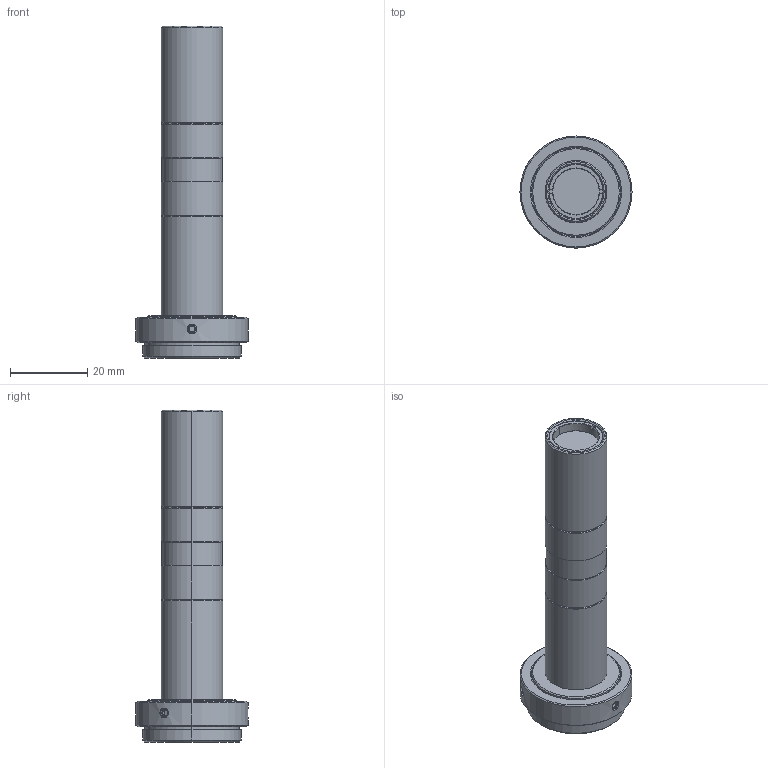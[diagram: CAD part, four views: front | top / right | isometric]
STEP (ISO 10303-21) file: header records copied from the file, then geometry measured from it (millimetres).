
FILE_DESCRIPTION (( 'STEP AP203' ), '1' );
FILE_NAME ('MML4-ST110_A03703A0100101A-001.STEP', '2013-12-10T10:50:56', ( 'SCHOTT' ), ( 'SCHOTT' ), 'SwSTEP 2.0', 'SolidWorks 2011', '' );
FILE_SCHEMA (( 'CONFIG_CONTROL_DESIGN' ));
Length unit declared in the file: millimetre
Products named in the file (1): MML4-ST110_A03703A0100101A-001
Bounding box: 29 x 29 x 85.93 mm (x, y, z)
Volume: 18041.2 mm3; surface area: 7695.4 mm2
Topology: 1 solids, 1 shells, 154 faces, 356 edges, 223 vertices
Faces by surface type: cone 67, plane 47, cylinder 38, torus 2
Entity records: 4628 total; most frequent: CARTESIAN_POINT 989, DIRECTION 781, ORIENTED_EDGE 712, EDGE_CURVE 356, AXIS2_PLACEMENT_3D 305, VERTEX_POINT 223, EDGE_LOOP 173, VECTOR 171
